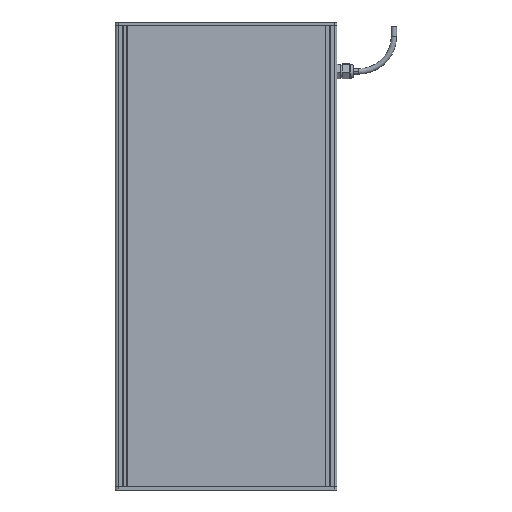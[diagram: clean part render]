
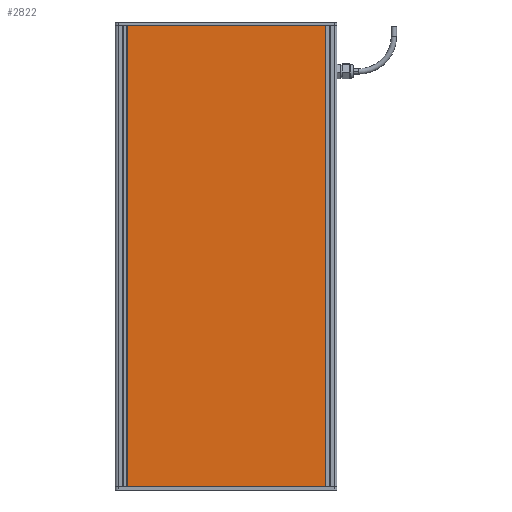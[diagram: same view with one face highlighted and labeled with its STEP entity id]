
A CAD part, front view. The second image highlights one B-rep face of the part: STEP entity #2822.
In plain terms, the highlighted planar face has unit normal (0, -1, 0) as drawn and (0, 0, 1) by its records, which use the part's own axes.
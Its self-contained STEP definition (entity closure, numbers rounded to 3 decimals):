
#70 = DIRECTION ( 'NONE',  ( -1., 0., 0. ) ) ;
#498 = DIRECTION ( 'NONE',  ( -1., 0., 0. ) ) ;
#1352 = ORIENTED_EDGE ( 'NONE', *, *, #10462, .T. ) ;
#1683 = FACE_OUTER_BOUND ( 'NONE', #8951, .T. ) ;
#1734 = EDGE_CURVE ( 'NONE', #2380, #13942, #1783, .T. ) ;
#1783 = LINE ( 'NONE', #4371, #11392 ) ;
#1784 = VECTOR ( 'NONE', #15501, 1000. ) ;
#2265 = LINE ( 'NONE', #13197, #1784 ) ;
#2338 = VECTOR ( 'NONE', #70, 1000. ) ;
#2380 = VERTEX_POINT ( 'NONE', #8868 ) ;
#2428 = LINE ( 'NONE', #3618, #2338 ) ;
#2822 = ADVANCED_FACE ( 'NONE', ( #1683 ), #5391, .F. ) ;
#3618 = CARTESIAN_POINT ( 'NONE',  ( -9., 0., 0. ) ) ;
#4236 = ORIENTED_EDGE ( 'NONE', *, *, #10929, .T. ) ;
#4371 = CARTESIAN_POINT ( 'NONE',  ( -9., -700., 0. ) ) ;
#4484 = VECTOR ( 'NONE', #9333, 1000. ) ;
#4524 = CARTESIAN_POINT ( 'NONE',  ( -9., 0., 0. ) ) ;
#4836 = CARTESIAN_POINT ( 'NONE',  ( -9., 0., 0. ) ) ;
#5391 = PLANE ( 'NONE',  #9450 ) ;
#7396 = VERTEX_POINT ( 'NONE', #7722 ) ;
#7722 = CARTESIAN_POINT ( 'NONE',  ( -309., 0., 0. ) ) ;
#7798 = ORIENTED_EDGE ( 'NONE', *, *, #12558, .T. ) ;
#7880 = DIRECTION ( 'NONE',  ( 0., 0., -1. ) ) ;
#8375 = VERTEX_POINT ( 'NONE', #4836 ) ;
#8483 = ORIENTED_EDGE ( 'NONE', *, *, #1734, .T. ) ;
#8868 = CARTESIAN_POINT ( 'NONE',  ( -309., -700., 0. ) ) ;
#8951 = EDGE_LOOP ( 'NONE', ( #7798, #1352, #4236, #8483 ) ) ;
#9178 = DIRECTION ( 'NONE',  ( 1., 0., 0. ) ) ;
#9333 = DIRECTION ( 'NONE',  ( 0., 1., 0. ) ) ;
#9450 = AXIS2_PLACEMENT_3D ( 'NONE', #11291, #7880, #498 ) ;
#10462 = EDGE_CURVE ( 'NONE', #8375, #7396, #2428, .T. ) ;
#10929 = EDGE_CURVE ( 'NONE', #7396, #2380, #2265, .T. ) ;
#11291 = CARTESIAN_POINT ( 'NONE',  ( 0., 0., 0. ) ) ;
#11392 = VECTOR ( 'NONE', #9178, 1000. ) ;
#12558 = EDGE_CURVE ( 'NONE', #13942, #8375, #15551, .T. ) ;
#13197 = CARTESIAN_POINT ( 'NONE',  ( -309., 0., 0. ) ) ;
#13942 = VERTEX_POINT ( 'NONE', #14546 ) ;
#14546 = CARTESIAN_POINT ( 'NONE',  ( -9., -700., 0. ) ) ;
#15501 = DIRECTION ( 'NONE',  ( 0., -1., 0. ) ) ;
#15551 = LINE ( 'NONE', #4524, #4484 ) ;
